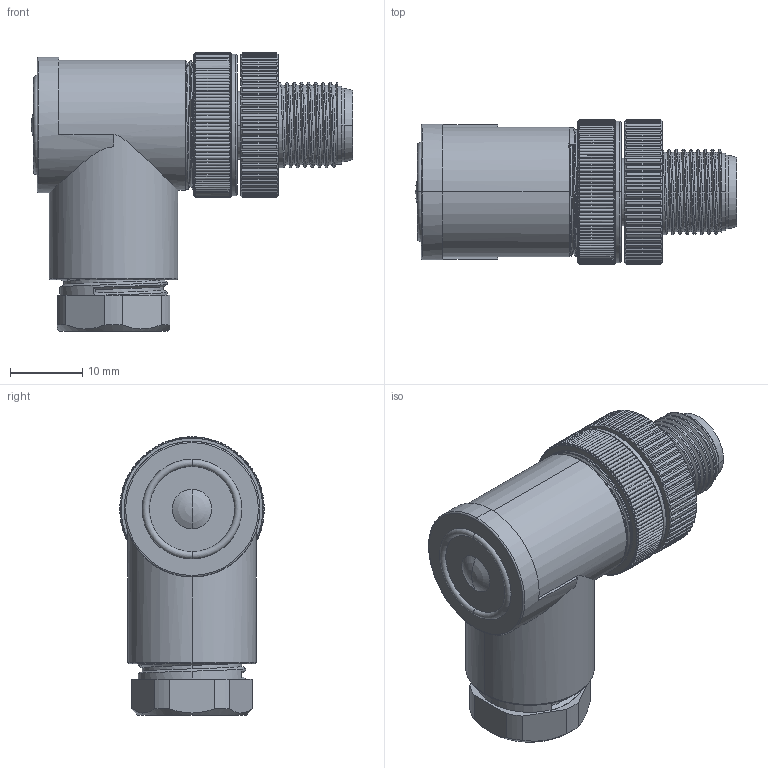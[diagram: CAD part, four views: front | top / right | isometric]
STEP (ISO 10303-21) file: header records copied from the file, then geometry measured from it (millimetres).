
FILE_DESCRIPTION((''),'2;1');
FILE_NAME('XC-PG9-LM','2025-06-20T14:08:15',('lyj'),(''),'CREO PARAMETRIC BY PTC INC, 2019010','CREO PARAMETRIC BY PTC INC, 2019010','');
FILE_SCHEMA(('CONFIG_CONTROL_DESIGN'));
Length unit declared in the file: millimetre
Products named in the file (1): XC-PG9-LM
Bounding box: 44.5 x 20 x 38.54 mm (x, y, z)
Volume: 8809.9 mm3; surface area: 12135.9 mm2
Topology: 1 solids, 7 shells, 1313 faces, 3546 edges, 2267 vertices
Faces by surface type: cylinder 496, cone 415, plane 320, torus 30, extrusion 28, bspline 14, sphere 10
Entity records: 63346 total; most frequent: CARTESIAN_POINT 31539, ORIENTED_EDGE 7072, DIRECTION 6221, EDGE_CURVE 3536, AXIS2_PLACEMENT_3D 2512, VERTEX_POINT 2267, EDGE_LOOP 1377, FACE_OUTER_BOUND 1313
